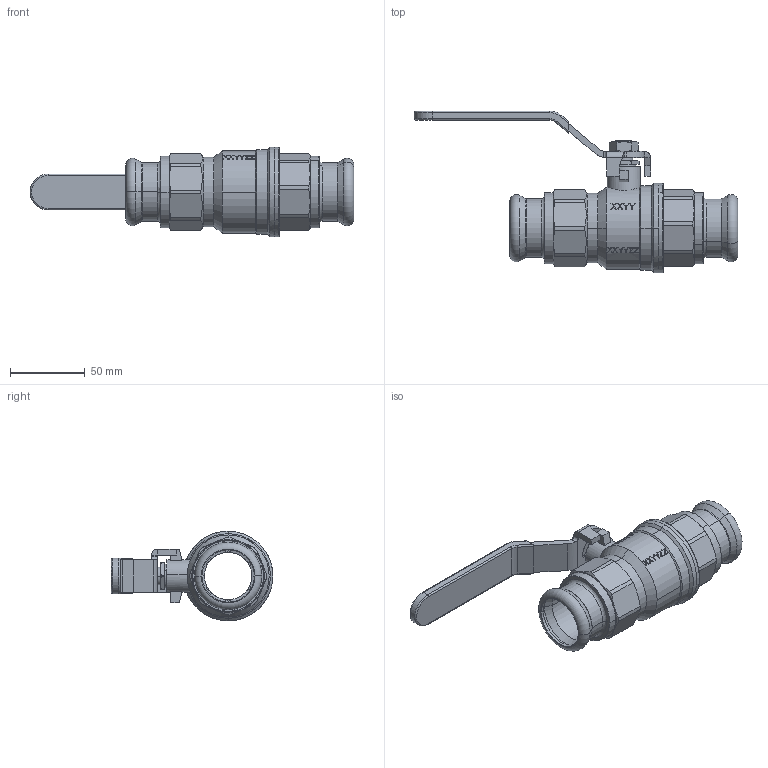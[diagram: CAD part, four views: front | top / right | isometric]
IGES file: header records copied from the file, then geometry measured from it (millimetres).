
Global section: file name: No Iges File Name specified; native system: AutoDesk Inventor R12.0; preprocessor: AutoDesk Inventor Iges Exporter R12.0; date: 20120118.110718; units: millimetre
Bounding box: 216.2 x 108.1 x 59.8 mm (x, y, z)
Volume: 158445.8 mm3; surface area: 79225.3 mm2
Topology: 1 solids, 8 shells, 817 faces, 2531 edges, 1833 vertices
Faces by surface type: plane 355, bspline 138, revolution 116, cylinder 92, cone 80, torus 32, sphere 4
